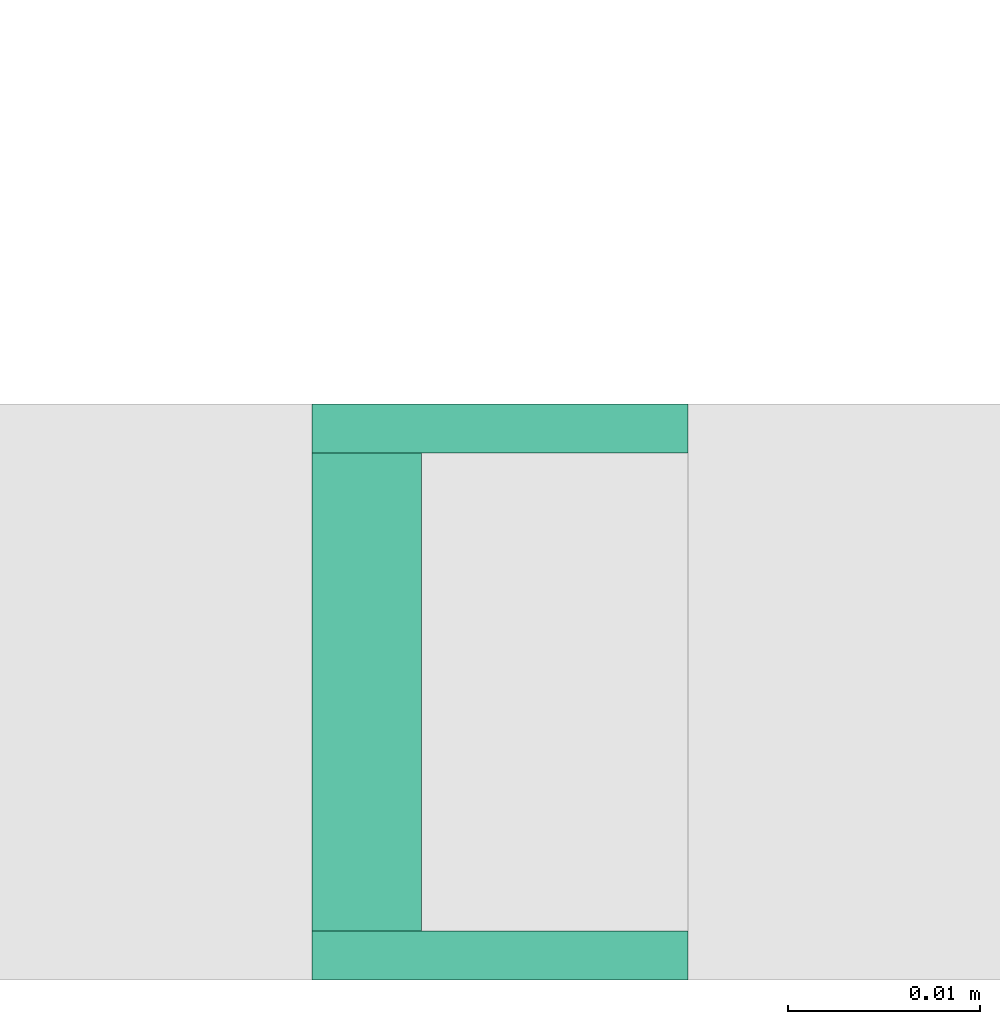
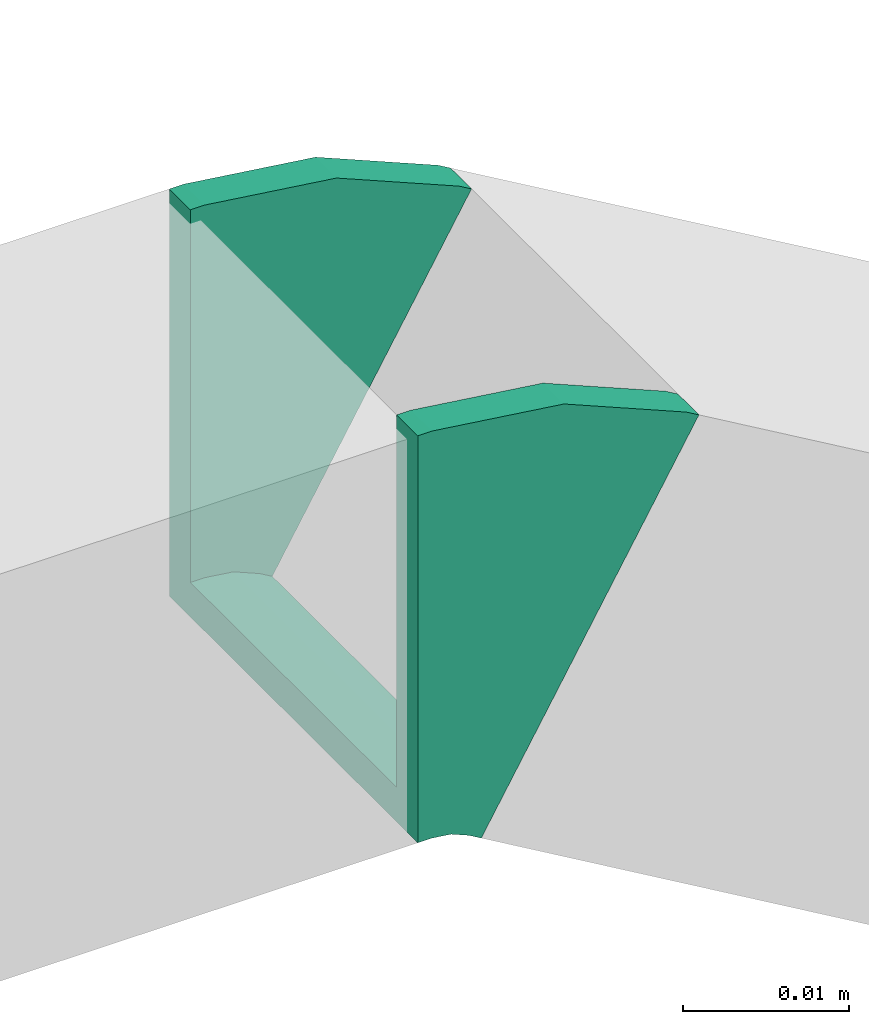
# One storey, part 145 of 153: 1 flow fitting.
"""IFC2X3 building model written with IfcOpenShell, lengths in metres."""

import ifcopenshell
import ifcopenshell.guid

model = None  # the IFC model being written
_history = None  # IfcOwnerHistory: only IFC2X3 demands one
_inside = {}  # id of a spatial element -> (the spatial element, [elements in it])
_under = {}  # id of a project, library or spatial element -> (it, [spatial elements below it])
_declared = {}  # id of a project -> (the project, [libraries it declares])
_typed = {}  # id of a type object -> (the type object, [elements of that type])
_made_of = {}  # id of a material, layer set ... -> (it, [elements and type objects made of it])


def new_model(schema):
    """Start an empty IFC model of exactly this schema.

    Asked for "IFC4X3", IfcOpenShell would pick the latest addendum, in which some entities
    have other attributes; the version numbers below select the first issue.
    IFC2X3 requires an IfcOwnerHistory on every rooted entity: one is made here for all.
    """
    global model, _history
    if schema == "IFC4X3":
        model = ifcopenshell.file(schema_version=(4, 3, 0, 0))
    else:
        model = ifcopenshell.file(schema=schema)
    _inside.clear()
    _under.clear()
    _declared.clear()
    _typed.clear()
    _made_of.clear()
    _history = None
    if model.schema == "IFC2X3":
        org = make("IfcOrganization", Name="unknown")
        user = make(
            "IfcPersonAndOrganization",
            ThePerson=make("IfcPerson", FamilyName="unknown"),
            TheOrganization=org,
        )
        app = make(
            "IfcApplication",
            ApplicationDeveloper=org,
            Version="unknown",
            ApplicationFullName="unknown",
            ApplicationIdentifier="unknown",
        )
        _history = make(
            "IfcOwnerHistory",
            OwningUser=user,
            OwningApplication=app,
            ChangeAction="ADDED",
            CreationDate=0,
        )
    return model


def make(cls, **values):
    """One entity of the class cls with the attributes given. An attribute that is None is left unset."""
    return model.create_entity(
        cls, **{name: value for name, value in values.items() if value is not None}
    )


def entity(cls, *values):
    """Any entity or typed value of the class cls, its attributes in the order of the schema. None: left unset."""
    e = model.create_entity(cls)
    for i, value in enumerate(values):
        if value is not None:
            e[i] = value
    return e


def rooted(cls, **values):
    """An entity with a GlobalId (a new one), such as an element, a storey or a relation."""
    return make(cls, GlobalId=ifcopenshell.guid.new(), OwnerHistory=_history, **values)


def si_unit(unit_type, name, prefix=None):
    """IfcSIUnit, for example si_unit("LENGTHUNIT", "METRE", prefix="MILLI")."""
    return make("IfcSIUnit", UnitType=unit_type, Prefix=prefix, Name=name)


def converted_unit(unit_type, name, factor, base, dimensions=None, offset=None):
    """IfcConversionBasedUnit, such as the inch: factor (a typed value) times the base unit."""
    return make(
        "IfcConversionBasedUnit"
        if offset is None
        else "IfcConversionBasedUnitWithOffset",
        ConversionOffset=offset,
        Dimensions=None
        if dimensions is None
        else entity("IfcDimensionalExponents", *dimensions),
        UnitType=unit_type,
        Name=name,
        ConversionFactor=make(
            "IfcMeasureWithUnit", ValueComponent=factor, UnitComponent=base
        ),
    )


def derived_unit(unit_type, elements):
    """IfcDerivedUnit: a product of units, each with its exponent."""
    return make(
        "IfcDerivedUnit",
        Elements=[
            make("IfcDerivedUnitElement", Unit=unit, Exponent=power)
            for unit, power in elements
        ],
        UnitType=unit_type,
    )


def assignment(units):
    """IfcUnitAssignment: the units of a project."""
    return None if units is None else make("IfcUnitAssignment", Units=units)


def point(xyz):
    """IfcCartesianPoint."""
    return None if xyz is None else make("IfcCartesianPoint", Coordinates=xyz)


def direction(xyz):
    """IfcDirection."""
    return None if xyz is None else make("IfcDirection", DirectionRatios=xyz)


def frame(location, z_axis=None, x_axis=None):
    """IfcAxis2Placement3D, a coordinate frame: its origin and axes. An axis left out is left unset."""
    return make(
        "IfcAxis2Placement3D",
        Location=point(location),
        Axis=direction(z_axis),
        RefDirection=direction(x_axis),
    )


def origin():
    """The frame at (0, 0, 0) with its axes left unset."""
    return frame((0.0, 0.0, 0.0))


def place(relative_to, where):
    """IfcLocalPlacement: puts the frame where relative to a parent placement (None: the world)."""
    return make(
        "IfcLocalPlacement", PlacementRelTo=relative_to, RelativePlacement=where
    )


def context(
    kind, dimensions, precision=None, world=None, true_north=None, identifier=None
):
    """IfcGeometricRepresentationContext, for example the 3D "Model" context."""
    return make(
        "IfcGeometricRepresentationContext",
        ContextIdentifier=identifier,
        ContextType=kind,
        CoordinateSpaceDimension=dimensions,
        Precision=precision,
        WorldCoordinateSystem=world,
        TrueNorth=true_north,
    )


def subcontext(parent, identifier, kind, view, scale=None):
    """IfcGeometricRepresentationSubContext, for example "Body" below "Model"."""
    return make(
        "IfcGeometricRepresentationSubContext",
        ContextIdentifier=identifier,
        ContextType=kind,
        ParentContext=parent,
        TargetScale=scale,
        TargetView=view,
    )


def project(units=None, contexts=None):
    """IfcProject with its units and contexts."""
    return rooted(
        "IfcProject",
        Name="project",
        RepresentationContexts=contexts,
        UnitsInContext=assignment(units),
    )


def spatial(cls, under=None, at=None, **own):
    """A site, building, storey or space (cls), placed at a placement, below another one or the project."""
    s = rooted(cls, ObjectPlacement=at, **own)
    if under is not None:
        _under.setdefault(under.id(), (under, []))[1].append(s)
    return s


def faces_of(points, faces, orient=None, outer=None):
    """IfcFace entities. A face is a list of loops; a loop is a list of indices into points, from 0.

    orient and outer hold one flag for each loop. By default every Orientation is true, the
    first loop of a face is its IfcFaceOuterBound and the others are IfcFaceBound.
    """
    made = []
    for i, loops in enumerate(faces):
        bounds = []
        for j, loop in enumerate(loops):
            is_outer = j == 0 if outer is None else outer[i][j]
            bounds.append(
                make(
                    "IfcFaceOuterBound" if is_outer else "IfcFaceBound",
                    Bound=make("IfcPolyLoop", Polygon=[points[k] for k in loop]),
                    Orientation=True if orient is None else orient[i][j],
                )
            )
        made.append(make("IfcFace", Bounds=bounds))
    return made


def faceted_brep(points, faces, orient=None, outer=None, voids=None):
    """IfcFacetedBrep: a solid bounded by flat faces; with voids (closed shells), ...WithVoids."""
    shared = [point(p) for p in points]
    hull = make("IfcClosedShell", CfsFaces=faces_of(shared, faces, orient, outer))
    if voids is None:
        return make("IfcFacetedBrep", Outer=hull)
    return make(
        "IfcFacetedBrepWithVoids",
        Outer=hull,
        Voids=[
            make(cls, CfsFaces=faces_of(shared, fs, o, b)) for cls, fs, o, b in voids
        ],
    )


def shape(context_of_items, identifier, shape_type, items):
    """IfcShapeRepresentation: the items that make up one representation, for example the "Body"."""
    return make(
        "IfcShapeRepresentation",
        ContextOfItems=context_of_items,
        RepresentationIdentifier=identifier,
        RepresentationType=shape_type,
        Items=items,
    )


def source(mapping_origin, context_of_items, identifier, shape_type, items):
    """IfcRepresentationMap: a shape defined once, which mapped items show again and again."""
    return make(
        "IfcRepresentationMap",
        MappingOrigin=mapping_origin,
        MappedRepresentation=shape(context_of_items, identifier, shape_type, items),
    )


def transform(
    local_origin,
    x_axis=None,
    y_axis=None,
    z_axis=None,
    scale=None,
    scale2=None,
    scale3=None,
    uniform=True,
):
    """IfcCartesianTransformationOperator3D, or its non-uniform kind. x_axis, y_axis, z_axis: its Axis1, 2, 3."""
    if uniform:
        return make(
            "IfcCartesianTransformationOperator3D",
            Axis1=direction(x_axis),
            Axis2=direction(y_axis),
            LocalOrigin=point(local_origin),
            Scale=scale,
            Axis3=direction(z_axis),
        )
    return make(
        "IfcCartesianTransformationOperator3DnonUniform",
        Axis1=direction(x_axis),
        Axis2=direction(y_axis),
        LocalOrigin=point(local_origin),
        Scale=scale,
        Axis3=direction(z_axis),
        Scale2=scale2,
        Scale3=scale3,
    )


def mapped(mapping_source, mapping_target):
    """IfcMappedItem: shows the shape of a source again, moved by a transform."""
    return make(
        "IfcMappedItem", MappingSource=mapping_source, MappingTarget=mapping_target
    )


def made_of(thing, what):
    """Note that an element or type object is made of a material, layer set ...; save() writes the relation."""
    if what is not None:
        _made_of.setdefault(what.id(), (what, []))[1].append(thing)
    return thing


def type_object(cls, material=None, **own):
    """A type object (cls), such as IfcWallType, which elements share."""
    return made_of(rooted(cls, **own), material)


def type_shapes(of_type, sources):
    """Give a type object the sources (RepresentationMaps) that its elements show as mapped items."""
    of_type.RepresentationMaps = sources


def element(
    cls,
    number,
    at=None,
    inside=None,
    cuts=None,
    type_object=None,
    material=None,
    context=None,
    identifier="Body",
    shape_type=None,
    held_by="IfcProductDefinitionShape",
    body=None,
    shapes=None,
    **own,
):
    """One element of the class cls, such as IfcWall. Its Tag is "e" and its number.

    at: its placement. inside: the storey or other place that contains it. cuts: it is an
    opening in that element (IfcRelVoidsElement). A single representation is given by context,
    identifier, shape_type and body (its items); several are given by shapes. held_by: the class
    of the entity that holds the representations. save() writes the other relations.
    """
    e = rooted(cls, Tag="e%d" % number, ObjectPlacement=at, **own)
    if body is not None:
        shapes = [shape(context, identifier, shape_type, body)]
    if shapes is not None:
        e.Representation = make(held_by, Representations=shapes)
    if inside is not None:
        _inside.setdefault(inside.id(), (inside, []))[1].append(e)
    if cuts is not None:
        rooted(
            "IfcRelVoidsElement", RelatingBuildingElement=cuts, RelatedOpeningElement=e
        )
    if type_object is not None:
        _typed.setdefault(type_object.id(), (type_object, []))[1].append(e)
    return made_of(e, material)


def aggregate(whole, parts):
    """IfcRelAggregates: a whole, such as a stair, and the parts it consists of."""
    return rooted("IfcRelAggregates", RelatingObject=whole, RelatedObjects=parts)


def save(model, path):
    """Write the relations noted so far, then the file.

    IfcRelAggregates (storeys below a building ...), IfcRelContainedInSpatialStructure (elements
    in a storey), IfcRelDefinesByType, IfcRelAssociatesMaterial and IfcRelDeclares: one each for
    every whole, place, type object, material and project.
    """
    for whole, parts in _under.values():
        aggregate(whole, parts)
    for where, things in _inside.values():
        rooted(
            "IfcRelContainedInSpatialStructure",
            RelatedElements=things,
            RelatingStructure=where,
        )
    for kind, things in _typed.values():
        rooted("IfcRelDefinesByType", RelatedObjects=things, RelatingType=kind)
    for what, things in _made_of.values():
        rooted("IfcRelAssociatesMaterial", RelatedObjects=things, RelatingMaterial=what)
    for by, libraries in _declared.values():
        rooted("IfcRelDeclares", RelatingContext=by, RelatedDefinitions=libraries)
    model.write(path)


model = new_model("IFC2X3")

# Units and contexts
model_context = context("Model", 3, precision=1e-05, world=origin(), true_north=direction((6.12303176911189e-17, 1.0)))
body_context = subcontext(model_context, "Body", "Model", "MODEL_VIEW")
ifc_project = project(units=[si_unit("LENGTHUNIT", "METRE"), si_unit("AREAUNIT", "SQUARE_METRE"), si_unit("VOLUMEUNIT", "CUBIC_METRE"), converted_unit("PLANEANGLEUNIT", "DEGREE", entity("IfcRatioMeasure", 0.0174532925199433), si_unit("PLANEANGLEUNIT", "RADIAN"), dimensions=[0, 0, 0, 0, 0, 0, 0]), si_unit("MASSUNIT", "GRAM", prefix="KILO"), derived_unit("MASSDENSITYUNIT", [(si_unit("MASSUNIT", "GRAM", prefix="KILO"), 1), (si_unit("LENGTHUNIT", "METRE"), -3)]), si_unit("TIMEUNIT", "SECOND"), si_unit("FREQUENCYUNIT", "HERTZ"), si_unit("THERMODYNAMICTEMPERATUREUNIT", "DEGREE_CELSIUS"), derived_unit("THERMALTRANSMITTANCEUNIT", [(si_unit("MASSUNIT", "GRAM", prefix="KILO"), 1), (si_unit("THERMODYNAMICTEMPERATUREUNIT", "KELVIN"), -1), (si_unit("TIMEUNIT", "SECOND"), -3)]), derived_unit("VOLUMETRICFLOWRATEUNIT", [(si_unit("LENGTHUNIT", "METRE"), 3), (si_unit("TIMEUNIT", "SECOND"), -1)]), si_unit("ELECTRICCURRENTUNIT", "AMPERE"), si_unit("ELECTRICVOLTAGEUNIT", "VOLT"), si_unit("POWERUNIT", "WATT"), si_unit("FORCEUNIT", "NEWTON"), si_unit("ILLUMINANCEUNIT", "LUX"), si_unit("LUMINOUSFLUXUNIT", "LUMEN"), si_unit("LUMINOUSINTENSITYUNIT", "CANDELA"), derived_unit("USERDEFINED", [(si_unit("MASSUNIT", "GRAM", prefix="KILO"), -1), (si_unit("LENGTHUNIT", "METRE"), -2), (si_unit("TIMEUNIT", "SECOND"), 3), (si_unit("LUMINOUSFLUXUNIT", "LUMEN"), 1)]), derived_unit("LINEARVELOCITYUNIT", [(si_unit("LENGTHUNIT", "METRE"), 1), (si_unit("TIMEUNIT", "SECOND"), -1)]), si_unit("PRESSUREUNIT", "PASCAL"), derived_unit("USERDEFINED", [(si_unit("LENGTHUNIT", "METRE"), -2), (si_unit("MASSUNIT", "GRAM", prefix="KILO"), 1), (si_unit("TIMEUNIT", "SECOND"), -2)])], contexts=[model_context])

# Site, building, storey
site_placement = place(None, origin())
site = spatial("IfcSite", under=ifc_project, at=site_placement, Name="Default", CompositionType="ELEMENT")
building_placement = place(site_placement, origin())
building = spatial("IfcBuilding", under=site, at=building_placement, CompositionType="ELEMENT")
storey_placement = place(building_placement, frame((0.0, 0.0, -4.62)))
storey = spatial("IfcBuildingStorey", under=building, at=storey_placement, Name="S02", CompositionType="ELEMENT", Elevation=-4.62)

# Flow fitting
cable_carrier_fitting_type = type_object("IfcCableCarrierFittingType", Name="E_Bend_Vertical_Outside_CA_Generic_MEPcontent", PredefinedType="NOTDEFINED")
shared_shape = source(origin(), body_context, "Body", "Brep", [
    faceted_brep([(-0.00288263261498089, 0.0156974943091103, 0.015), (0.0122889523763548, -0.0101834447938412, 0.015), (0.0122889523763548, -0.0101834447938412, 0.01246000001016), (-0.00159810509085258, 0.0135062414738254, 0.01246000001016), (-0.00159810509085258, 0.0135062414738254, -0.01246000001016), (0.0122889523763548, -0.0101834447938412, -0.01246000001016), (0.0122889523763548, -0.0101834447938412, -0.015), (-0.00288263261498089, 0.0156974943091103, -0.015), (-0.00288263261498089, 0.0156974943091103, -0.00516262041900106), (-0.00288263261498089, 0.0156974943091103, 0.00467475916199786), (-0.00545168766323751, 0.015, -0.015), (-0.00545168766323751, -0.015, -0.015), (-0.00545168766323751, -0.015, -0.01246000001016), (-0.00545168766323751, 0.01246000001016, -0.01246000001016), (-0.00545168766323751, 0.01246000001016, 0.01246000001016), (-0.00545168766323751, -0.015, 0.01246000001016), (-0.00545168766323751, -0.015, 0.015), (-0.00545168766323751, 0.015, 0.015), (-0.00545168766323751, 0.015, 0.0), (0.0037397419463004, -0.0137744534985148, 0.015), (-0.00412065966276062, 0.0151774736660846, 0.015), (0.0037397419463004, -0.0137744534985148, 0.01246000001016), (0.0037397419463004, -0.0137744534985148, -0.015), (0.0037397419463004, -0.0137744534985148, -0.01246000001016), (-0.00345514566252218, 0.0127262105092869, 0.01246000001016), (-0.00345514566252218, 0.0127262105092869, -0.01246000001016), (-0.00412065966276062, 0.0151774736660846, -0.015), (-0.00403546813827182, 0.0152014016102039, -0.000243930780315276)], [[[0, 1, 2, 3, 4, 5, 6, 7, 8, 9]], [[10, 11, 12, 13, 14, 15, 16, 17, 18]], [[17, 16, 19, 1, 0, 20]], [[15, 21, 19, 16]], [[12, 11, 22, 23]], [[19, 21, 2, 1]], [[22, 6, 5, 23]], [[24, 3, 2, 21, 15, 14]], [[14, 13, 25, 24]], [[25, 4, 3, 24]], [[13, 12, 23, 5, 4, 25]], [[26, 7, 6, 22, 11, 10]], [[8, 27, 9]], [[27, 8, 26]], [[20, 27, 18]], [[26, 10, 18]], [[17, 20, 18]], [[9, 27, 20]], [[9, 20, 0]], [[8, 7, 26]], [[18, 27, 26]]]),
    faceted_brep([(-0.00288263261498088, 0.0156974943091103, 0.015), (-0.00288263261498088, 0.0156974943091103, -0.015), (0.0122889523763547, -0.0101834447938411, -0.015), (0.0122889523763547, -0.0101834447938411, -0.01246000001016), (-0.00159810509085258, 0.0135062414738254, -0.01246000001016), (-0.00159810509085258, 0.0135062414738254, 0.01246000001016), (0.0122889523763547, -0.0101834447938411, 0.01246000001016), (0.0122889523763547, -0.0101834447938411, 0.015), (-0.00201993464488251, 0.0162032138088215, 0.015), (0.0131516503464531, -0.00967772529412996, 0.015), (0.0131516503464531, -0.00967772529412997, 0.01246000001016), (-0.000735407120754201, 0.0140119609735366, 0.01246000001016), (-0.000735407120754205, 0.0140119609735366, -0.01246000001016), (0.0131516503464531, -0.00967772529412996, -0.01246000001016), (0.0131516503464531, -0.00967772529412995, -0.015), (-0.00201993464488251, 0.0162032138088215, -0.015)], [[[0, 1, 2, 3, 4, 5, 6, 7]], [[8, 9, 10, 11, 12, 13, 14, 15]], [[1, 0, 8, 15]], [[2, 1, 15, 14]], [[3, 2, 14, 13]], [[4, 3, 13, 12]], [[5, 4, 12, 11]], [[6, 5, 11, 10]], [[7, 6, 10, 9]], [[0, 7, 9, 8]]]),
    faceted_brep([(-0.00545168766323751, 0.015, 0.015), (-0.00545168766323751, -0.015, 0.015), (-0.00545168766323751, -0.015, 0.01246000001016), (-0.00545168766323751, 0.01246000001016, 0.01246000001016), (-0.00545168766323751, 0.01246000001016, -0.01246000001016), (-0.00545168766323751, -0.015, -0.01246000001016), (-0.00545168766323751, -0.015, -0.015), (-0.00545168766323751, 0.015, -0.015), (-0.0064516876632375, 0.015, 0.015), (-0.0064516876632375, 0.015, -0.015), (-0.0064516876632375, -0.015, -0.015), (-0.0064516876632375, -0.015, -0.01246000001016), (-0.0064516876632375, 0.01246000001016, -0.01246000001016), (-0.0064516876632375, 0.01246000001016, 0.01246000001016), (-0.0064516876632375, -0.015, 0.01246000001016), (-0.0064516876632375, -0.015, 0.015)], [[[0, 1, 2, 3, 4, 5, 6, 7]], [[8, 9, 10, 11, 12, 13, 14, 15]], [[1, 0, 8, 15]], [[2, 1, 15, 14]], [[3, 2, 14, 13]], [[4, 3, 13, 12]], [[5, 4, 12, 11]], [[6, 5, 11, 10]], [[7, 6, 10, 9]], [[0, 7, 9, 8]]]),
])
type_shapes(cable_carrier_fitting_type, [shared_shape])
flow_fitting_placement = place(storey_placement, frame((56.3871034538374, -195.835320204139, 5.42483114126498), z_axis=(0.0, -1.0, 0.0), x_axis=(-0.862697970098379, 0.0, 0.50571949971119)))
element("IfcFlowFitting", 1, at=flow_fitting_placement, inside=storey, type_object=cable_carrier_fitting_type, Name="E_Bend_Vertical_Outside_CA_Generic_MEPcontent:E_Bend_Vertical_Outside_CA_Generic_MEPcontent", ObjectType="E_Bend_Vertical_Outside_CA_Generic_MEPcontent:E_Bend_Vertical_Outside_CA_Generic_MEPcontent", context=body_context, shape_type="MappedRepresentation", body=[
    mapped(shared_shape, transform((0.0, 0.0, 0.0), scale=1.0)),
])

save(model, "model.ifc")
